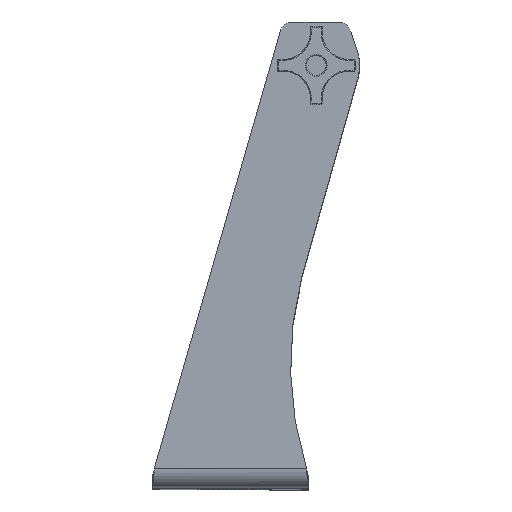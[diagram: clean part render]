
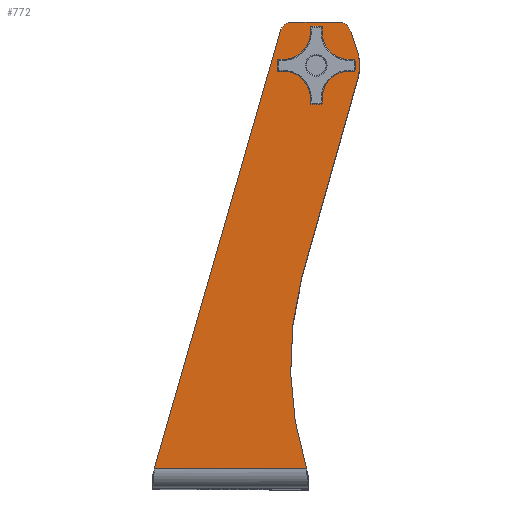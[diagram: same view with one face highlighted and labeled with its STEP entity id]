
A CAD part, top view. The second image highlights one B-rep face of the part: STEP entity #772.
In plain terms, the highlighted planar face has unit normal (0, 0, 1) as drawn and (1, 0, 0) by its records, which use the part's own axes.
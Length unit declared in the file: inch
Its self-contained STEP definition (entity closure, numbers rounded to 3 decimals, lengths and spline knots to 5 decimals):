
#64 = ORIENTED_EDGE ( 'NONE', *, *, #1601, .T. ) ;
#491 = AXIS2_PLACEMENT_3D ( 'NONE', #8271, #540, #9898 ) ;
#540 = DIRECTION ( 'NONE',  ( -1., 0., 0. ) ) ;
#772 = ADVANCED_FACE ( 'NONE', ( #9933, #2080 ), #6277, .T. ) ;
#1044 = VERTEX_POINT ( 'NONE', #10412 ) ;
#1366 = EDGE_LOOP ( 'NONE', ( #9290, #7445 ) ) ;
#1538 = LINE ( 'NONE', #8389, #8403 ) ;
#1601 = EDGE_CURVE ( 'NONE', #9317, #4637, #7616, .T. ) ;
#1663 = CARTESIAN_POINT ( 'NONE',  ( 12.3755, 13.05126, -1.79451 ) ) ;
#1764 = ORIENTED_EDGE ( 'NONE', *, *, #8659, .T. ) ;
#1789 = VECTOR ( 'NONE', #10580, 39.37008 ) ;
#1814 = AXIS2_PLACEMENT_3D ( 'NONE', #8027, #9718, #4651 ) ;
#1834 = ORIENTED_EDGE ( 'NONE', *, *, #10228, .T. ) ;
#2080 = FACE_OUTER_BOUND ( 'NONE', #5624, .T. ) ;
#2089 = ORIENTED_EDGE ( 'NONE', *, *, #3622, .T. ) ;
#2167 = DIRECTION ( 'NONE',  ( 0., 0., -1. ) ) ;
#2248 = DIRECTION ( 'NONE',  ( 0., 0.951, 0.31 ) ) ;
#2264 = EDGE_CURVE ( 'NONE', #6159, #2893, #9796, .T. ) ;
#2361 = DIRECTION ( 'NONE',  ( 0., 1., 0. ) ) ;
#2489 = VECTOR ( 'NONE', #7178, 39.37008 ) ;
#2893 = VERTEX_POINT ( 'NONE', #5587 ) ;
#2911 = CIRCLE ( 'NONE', #6844, 0.1955 ) ;
#2995 = EDGE_CURVE ( 'NONE', #9677, #7797, #6770, .T. ) ;
#3009 = CARTESIAN_POINT ( 'NONE',  ( 12.3755, 0.563, -11.72649 ) ) ;
#3083 = CARTESIAN_POINT ( 'NONE',  ( 12.3755, 12.3715, -2.46533 ) ) ;
#3115 = CARTESIAN_POINT ( 'NONE',  ( 12.3755, 13.426, -1.79451 ) ) ;
#3268 = DIRECTION ( 'NONE',  ( 0., 1., 0. ) ) ;
#3314 = ORIENTED_EDGE ( 'NONE', *, *, #2264, .T. ) ;
#3438 = EDGE_CURVE ( 'NONE', #1044, #6159, #8001, .T. ) ;
#3622 = EDGE_CURVE ( 'NONE', #10977, #1044, #9495, .T. ) ;
#3708 = CARTESIAN_POINT ( 'NONE',  ( 12.3755, 13.15965, -3.45894 ) ) ;
#3890 = CIRCLE ( 'NONE', #9814, 0.1955 ) ;
#3934 = LINE ( 'NONE', #4883, #9641 ) ;
#3949 = EDGE_CURVE ( 'NONE', #8147, #9677, #1538, .T. ) ;
#3987 = CARTESIAN_POINT ( 'NONE',  ( 12.3755, 12.176, -2.46533 ) ) ;
#4400 = DIRECTION ( 'NONE',  ( 1., 0., 0. ) ) ;
#4458 = AXIS2_PLACEMENT_3D ( 'NONE', #10163, #4877, #3268 ) ;
#4637 = VERTEX_POINT ( 'NONE', #9942 ) ;
#4651 = DIRECTION ( 'NONE',  ( 0., 1., 0. ) ) ;
#4809 = AXIS2_PLACEMENT_3D ( 'NONE', #1663, #4400, #10689 ) ;
#4877 = DIRECTION ( 'NONE',  ( 1., 0., 0. ) ) ;
#4883 = CARTESIAN_POINT ( 'NONE',  ( 12.3755, 2.05303, -7.08248 ) ) ;
#4936 = EDGE_CURVE ( 'NONE', #6620, #7402, #2911, .T. ) ;
#5095 = CARTESIAN_POINT ( 'NONE',  ( 12.3755, 6.07712, -2.04636 ) ) ;
#5270 = LINE ( 'NONE', #5487, #2489 ) ;
#5459 = ORIENTED_EDGE ( 'NONE', *, *, #3949, .T. ) ;
#5487 = CARTESIAN_POINT ( 'NONE',  ( 12.3755, 13.426, -11.72649 ) ) ;
#5515 = CARTESIAN_POINT ( 'NONE',  ( 12.3755, 7.04347, 0.32736 ) ) ;
#5587 = CARTESIAN_POINT ( 'NONE',  ( 12.3755, 0.563, -2.18872 ) ) ;
#5624 = EDGE_LOOP ( 'NONE', ( #9365, #3314, #1764, #5459, #6210, #8122, #64, #1834, #2089 ) ) ;
#5810 = DIRECTION ( 'NONE',  ( 0., 1., 0. ) ) ;
#6159 = VERTEX_POINT ( 'NONE', #6330 ) ;
#6210 = ORIENTED_EDGE ( 'NONE', *, *, #2995, .T. ) ;
#6277 = PLANE ( 'NONE',  #1814 ) ;
#6330 = CARTESIAN_POINT ( 'NONE',  ( 12.3755, 0.563, 2.1958 ) ) ;
#6489 = CARTESIAN_POINT ( 'NONE',  ( 12.3755, 13.05126, -3.10022 ) ) ;
#6620 = VERTEX_POINT ( 'NONE', #3083 ) ;
#6770 = CIRCLE ( 'NONE', #4458, 1.25 ) ;
#6778 = DIRECTION ( 'NONE',  ( 1., 0., 0. ) ) ;
#6844 = AXIS2_PLACEMENT_3D ( 'NONE', #8248, #6778, #5810 ) ;
#7178 = DIRECTION ( 'NONE',  ( 0., 0., 1. ) ) ;
#7402 = VERTEX_POINT ( 'NONE', #10707 ) ;
#7445 = ORIENTED_EDGE ( 'NONE', *, *, #9163, .F. ) ;
#7616 = CIRCLE ( 'NONE', #9949, 0.37474 ) ;
#7797 = VERTEX_POINT ( 'NONE', #10976 ) ;
#8001 = LINE ( 'NONE', #5515, #1789 ) ;
#8027 = CARTESIAN_POINT ( 'NONE',  ( 12.3755, 3.56814, -11.72649 ) ) ;
#8122 = ORIENTED_EDGE ( 'NONE', *, *, #9141, .T. ) ;
#8147 = VERTEX_POINT ( 'NONE', #5095 ) ;
#8248 = CARTESIAN_POINT ( 'NONE',  ( 12.3755, 12.176, -2.46533 ) ) ;
#8271 = CARTESIAN_POINT ( 'NONE',  ( 12.3755, 3.56814, -11.72649 ) ) ;
#8389 = CARTESIAN_POINT ( 'NONE',  ( 12.3755, 6.27799, -2.10292 ) ) ;
#8403 = VECTOR ( 'NONE', #8440, 39.37008 ) ;
#8440 = DIRECTION ( 'NONE',  ( 0., 0.963, -0.271 ) ) ;
#8659 = EDGE_CURVE ( 'NONE', #2893, #8147, #10520, .T. ) ;
#9141 = EDGE_CURVE ( 'NONE', #7797, #9317, #3934, .T. ) ;
#9163 = EDGE_CURVE ( 'NONE', #7402, #6620, #3890, .T. ) ;
#9290 = ORIENTED_EDGE ( 'NONE', *, *, #4936, .F. ) ;
#9317 = VERTEX_POINT ( 'NONE', #3708 ) ;
#9365 = ORIENTED_EDGE ( 'NONE', *, *, #3438, .T. ) ;
#9421 = VECTOR ( 'NONE', #2167, 39.37008 ) ;
#9463 = CARTESIAN_POINT ( 'NONE',  ( 12.3755, 11.81447, -3.6619 ) ) ;
#9495 = CIRCLE ( 'NONE', #4809, 0.37474 ) ;
#9641 = VECTOR ( 'NONE', #2248, 39.37008 ) ;
#9677 = VERTEX_POINT ( 'NONE', #9463 ) ;
#9718 = DIRECTION ( 'NONE',  ( 1., 0., 0. ) ) ;
#9796 = LINE ( 'NONE', #3009, #9421 ) ;
#9814 = AXIS2_PLACEMENT_3D ( 'NONE', #3987, #10112, #10055 ) ;
#9898 = DIRECTION ( 'NONE',  ( 0., 1., 0. ) ) ;
#9933 = FACE_BOUND ( 'NONE', #1366, .T. ) ;
#9942 = CARTESIAN_POINT ( 'NONE',  ( 12.3755, 13.426, -3.10022 ) ) ;
#9949 = AXIS2_PLACEMENT_3D ( 'NONE', #6489, #10649, #2361 ) ;
#10055 = DIRECTION ( 'NONE',  ( 0., 1., 0. ) ) ;
#10112 = DIRECTION ( 'NONE',  ( 1., 0., 0. ) ) ;
#10163 = CARTESIAN_POINT ( 'NONE',  ( 12.3755, 12.176, -2.46533 ) ) ;
#10228 = EDGE_CURVE ( 'NONE', #4637, #10977, #5270, .T. ) ;
#10412 = CARTESIAN_POINT ( 'NONE',  ( 12.3755, 13.14147, -1.43079 ) ) ;
#10520 = CIRCLE ( 'NONE', #491, 10. ) ;
#10580 = DIRECTION ( 'NONE',  ( 0., -0.961, 0.277 ) ) ;
#10649 = DIRECTION ( 'NONE',  ( 1., 0., 0. ) ) ;
#10689 = DIRECTION ( 'NONE',  ( 0., 1., 0. ) ) ;
#10707 = CARTESIAN_POINT ( 'NONE',  ( 12.3755, 11.9805, -2.46533 ) ) ;
#10976 = CARTESIAN_POINT ( 'NONE',  ( 12.3755, 12.53753, -3.6619 ) ) ;
#10977 = VERTEX_POINT ( 'NONE', #3115 ) ;
